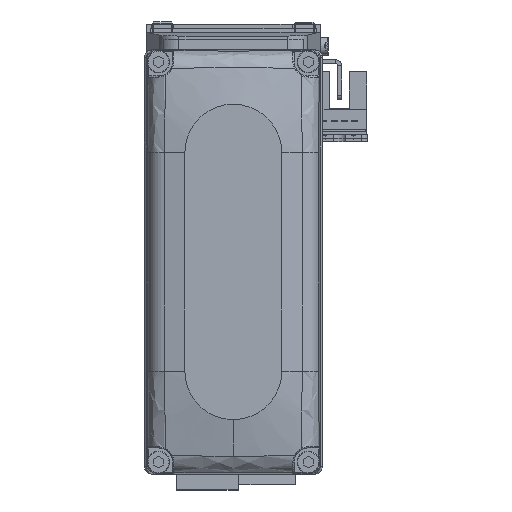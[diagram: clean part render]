
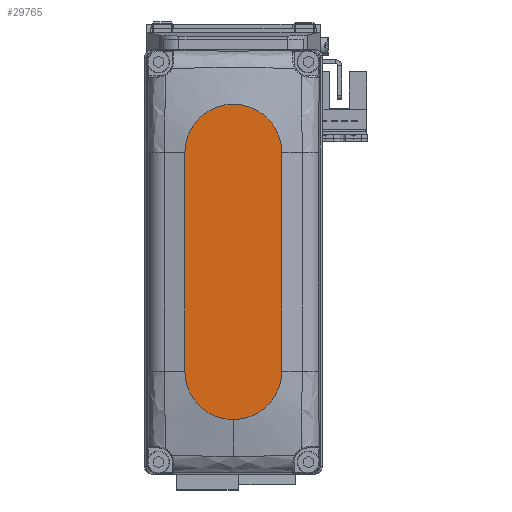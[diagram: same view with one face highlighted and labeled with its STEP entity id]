
A CAD part, top view. The second image highlights one B-rep face of the part: STEP entity #29765.
In plain terms, the highlighted planar face has unit normal (0, 0, 1).
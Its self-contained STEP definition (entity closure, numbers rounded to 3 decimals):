
#1001 = CARTESIAN_POINT ( 'NONE',  ( -27., 0., 25. ) ) ;
#1058 = EDGE_CURVE ( 'NONE', #26999, #26167, #10174, .T. ) ;
#1556 = CARTESIAN_POINT ( 'NONE',  ( 27., 0., 25. ) ) ;
#3638 = VECTOR ( 'NONE', #22361, 1000. ) ;
#3728 = CIRCLE ( 'NONE', #8875, 12. ) ;
#4211 = ORIENTED_EDGE ( 'NONE', *, *, #35513, .T. ) ;
#5124 = VERTEX_POINT ( 'NONE', #33916 ) ;
#5512 = ORIENTED_EDGE ( 'NONE', *, *, #1058, .T. ) ;
#6520 = ORIENTED_EDGE ( 'NONE', *, *, #17120, .T. ) ;
#6588 = CIRCLE ( 'NONE', #29067, 12. ) ;
#8875 = AXIS2_PLACEMENT_3D ( 'NONE', #11719, #23987, #36211 ) ;
#9985 = DIRECTION ( 'NONE',  ( 0., 0., 1. ) ) ;
#10084 = CARTESIAN_POINT ( 'NONE',  ( -27., 12., 25. ) ) ;
#10174 = LINE ( 'NONE', #22444, #35983 ) ;
#10536 = EDGE_LOOP ( 'NONE', ( #37313, #6520, #5512, #4211, #17364 ) ) ;
#11719 = CARTESIAN_POINT ( 'NONE',  ( 27., 0., 25. ) ) ;
#12553 = CARTESIAN_POINT ( 'NONE',  ( -27., -12., 25. ) ) ;
#12969 = EDGE_CURVE ( 'NONE', #38998, #37413, #3728, .T. ) ;
#13008 = FACE_OUTER_BOUND ( 'NONE', #10536, .T. ) ;
#13248 = DIRECTION ( 'NONE',  ( 0., 0., 1. ) ) ;
#13807 = DIRECTION ( 'NONE',  ( 0., 0., 1. ) ) ;
#14273 = CIRCLE ( 'NONE', #36708, 12. ) ;
#17120 = EDGE_CURVE ( 'NONE', #5124, #26999, #14273, .T. ) ;
#17364 = ORIENTED_EDGE ( 'NONE', *, *, #12969, .T. ) ;
#19899 = CARTESIAN_POINT ( 'NONE',  ( 27., -12., 25. ) ) ;
#22260 = DIRECTION ( 'NONE',  ( 1., 0., 0. ) ) ;
#22361 = DIRECTION ( 'NONE',  ( -1., 0., 0. ) ) ;
#22444 = CARTESIAN_POINT ( 'NONE',  ( -27., -12., 25. ) ) ;
#23987 = DIRECTION ( 'NONE',  ( 0., 0., 1. ) ) ;
#24251 = AXIS2_PLACEMENT_3D ( 'NONE', #37496, #9985, #22260 ) ;
#25280 = PLANE ( 'NONE',  #24251 ) ;
#25521 = DIRECTION ( 'NONE',  ( 1., 0., 0. ) ) ;
#26083 = DIRECTION ( 'NONE',  ( 1., 0., 0. ) ) ;
#26167 = VERTEX_POINT ( 'NONE', #19899 ) ;
#26999 = VERTEX_POINT ( 'NONE', #12553 ) ;
#28878 = EDGE_CURVE ( 'NONE', #37413, #5124, #37599, .T. ) ;
#29067 = AXIS2_PLACEMENT_3D ( 'NONE', #1556, #13807, #26083 ) ;
#29765 = ADVANCED_FACE ( 'NONE', ( #13008 ), #25280, .T. ) ;
#32993 = CARTESIAN_POINT ( 'NONE',  ( 39., 0., 25. ) ) ;
#33916 = CARTESIAN_POINT ( 'NONE',  ( -27., 12., 25. ) ) ;
#34216 = CARTESIAN_POINT ( 'NONE',  ( 27., 12., 25. ) ) ;
#34679 = DIRECTION ( 'NONE',  ( 1., 0., 0. ) ) ;
#35513 = EDGE_CURVE ( 'NONE', #26167, #38998, #6588, .T. ) ;
#35983 = VECTOR ( 'NONE', #34679, 1000. ) ;
#36211 = DIRECTION ( 'NONE',  ( 1., 0., 0. ) ) ;
#36708 = AXIS2_PLACEMENT_3D ( 'NONE', #1001, #13248, #25521 ) ;
#37313 = ORIENTED_EDGE ( 'NONE', *, *, #28878, .T. ) ;
#37413 = VERTEX_POINT ( 'NONE', #34216 ) ;
#37496 = CARTESIAN_POINT ( 'NONE',  ( 0., 0., 25. ) ) ;
#37599 = LINE ( 'NONE', #10084, #3638 ) ;
#38998 = VERTEX_POINT ( 'NONE', #32993 ) ;
